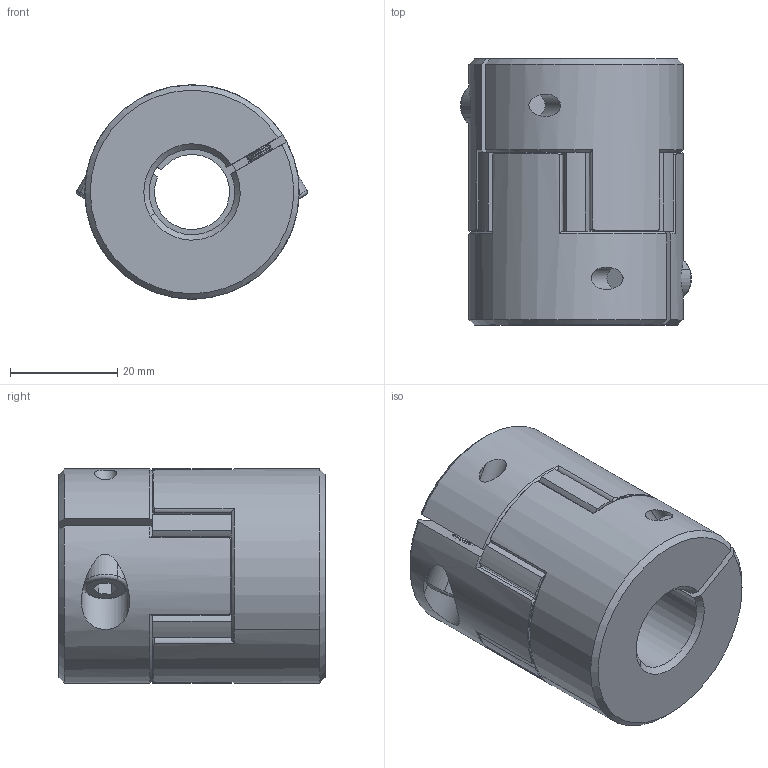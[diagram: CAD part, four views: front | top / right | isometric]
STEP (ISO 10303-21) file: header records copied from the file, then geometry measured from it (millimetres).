
FILE_DESCRIPTION (( 'STEP AP203' ), '1' );
FILE_NAME ('LF-B-D40L50-14-16.STEP', '2021-10-25T03:05:20', ( '' ), ( '' ), 'SwSTEP 2.0', 'SolidWorks 2018', '' );
FILE_SCHEMA (( 'CONFIG_CONTROL_DESIGN' ));
Length unit declared in the file: millimetre
Products named in the file (1): LF-B-D40L50-14-16
Bounding box: 43.11 x 49.7 x 40 mm (x, y, z)
Volume: 50742.8 mm3; surface area: 14631.6 mm2
Topology: 1 solids, 7 shells, 471 faces, 1117 edges, 662 vertices
Faces by surface type: cone 170, cylinder 169, plane 128, torus 4
Entity records: 13972 total; most frequent: CARTESIAN_POINT 2895, DIRECTION 2509, ORIENTED_EDGE 2226, EDGE_CURVE 1113, AXIS2_PLACEMENT_3D 1040, VERTEX_POINT 662, CIRCLE 568, EDGE_LOOP 487
